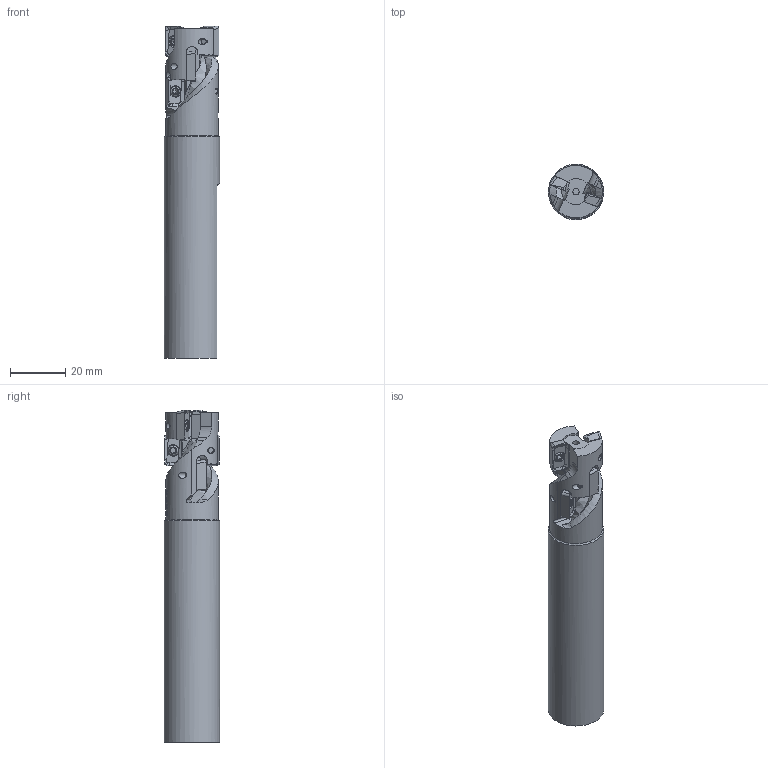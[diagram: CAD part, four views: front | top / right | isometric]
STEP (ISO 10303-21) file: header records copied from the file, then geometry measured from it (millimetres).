
FILE_DESCRIPTION(/* description */ (''),/* implementation_level */ '2;1');
FILE_NAME(/* name */ 'Z:\Проектный отдел\Даниил\EAP300R-C20-20-28M-120-2T-6P\EAP300R-C20-20-28M-120-2T-6P.stp',/* time_stamp */ '2023-11-27T15:46:33+03:00',/* author */ ('Арина'),/* organization */ (''),/* preprocessor_version */ 'ST-DEVELOPER v18',/* originating_system */ 'Autodesk Inventor 2020',/* authorisation */ '');
FILE_SCHEMA (('AUTOMOTIVE_DESIGN { 1 0 10303 214 3 1 1 }'));
Length unit declared in the file: millimetre
Products named in the file (4): EAP300R-C20-20-28M-120-2T-6P; EAP300R-C20-20-28M-120-2T-6P_1; Напайка; болт
Assembly tree (13 placements, depth 2):
  EAP300R-C20-20-28M-120-2T-6P
    EAP300R-C20-20-28M-120-2T-6P_1
    Напайка  x6
    болт  x6
Bounding box: 20 x 19.97 x 120.13 mm (x, y, z)
Volume: 32739.5 mm3; surface area: 10762.8 mm2
Topology: 13 solids, 13 shells, 912 faces, 2496 edges, 1645 vertices
Faces by surface type: bspline 386, plane 268, cylinder 161, cone 90, torus 7
Full cylindrical faces by diameter (mm): 2.2 x7, 2.3 x1, 2.5 x12, 3.5 x6, 9.8 x1, 19 x1, 20 x1
Entity records: 26755 total; most frequent: CARTESIAN_POINT 13740, ORIENTED_EDGE 3172, DIRECTION 1792, EDGE_CURVE 1586, VERTEX_POINT 1060, B_SPLINE_CURVE_WITH_KNOTS 659, LINE 628, VECTOR 628
